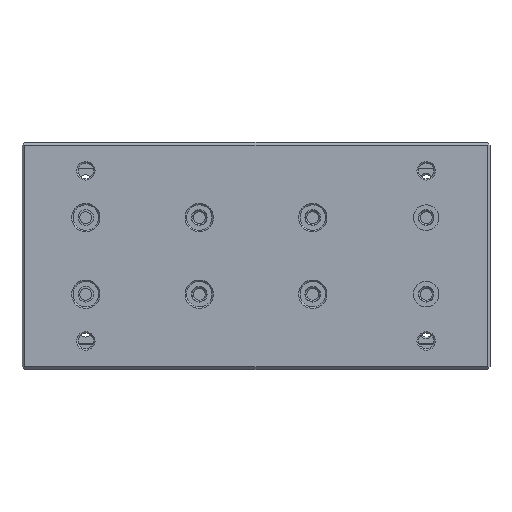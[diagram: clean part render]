
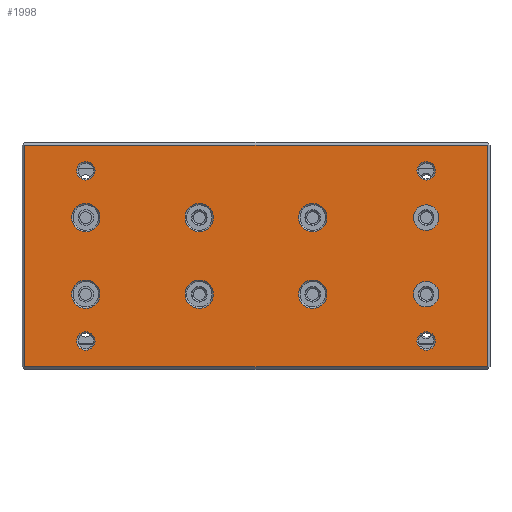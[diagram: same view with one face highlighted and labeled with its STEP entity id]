
A CAD part, top view. The second image highlights one B-rep face of the part: STEP entity #1998.
In plain terms, the highlighted planar face has unit normal (0, 0, 1) as drawn and (0, 0, -1) by its records, which use the part's own axes.
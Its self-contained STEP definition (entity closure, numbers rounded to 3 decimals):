
#1=CARTESIAN_POINT('',(142.5,-13.5,0.));
#2=DIRECTION('',(0.,0.,-1.));
#3=DIRECTION('',(1.,0.,0.));
#4=AXIS2_PLACEMENT_3D('',#1,#2,#3);
#6=CARTESIAN_POINT('',(142.5,-13.5,0.));
#7=DIRECTION('',(0.,0.,-1.));
#8=DIRECTION('',(-1.,0.,0.));
#9=AXIS2_PLACEMENT_3D('',#6,#7,#8);
#11=CARTESIAN_POINT('',(142.5,13.5,0.));
#12=DIRECTION('',(0.,0.,-1.));
#13=DIRECTION('',(1.,0.,0.));
#14=AXIS2_PLACEMENT_3D('',#11,#12,#13);
#16=CARTESIAN_POINT('',(142.5,13.5,0.));
#17=DIRECTION('',(0.,0.,-1.));
#18=DIRECTION('',(-1.,0.,0.));
#19=AXIS2_PLACEMENT_3D('',#16,#17,#18);
#21=CARTESIAN_POINT('',(22.5,30.,0.));
#22=DIRECTION('',(0.,0.,1.));
#23=DIRECTION('',(1.,0.,0.));
#24=AXIS2_PLACEMENT_3D('',#21,#22,#23);
#26=CARTESIAN_POINT('',(22.5,30.,0.));
#27=DIRECTION('',(0.,0.,1.));
#28=DIRECTION('',(-1.,0.,0.));
#29=AXIS2_PLACEMENT_3D('',#26,#27,#28);
#31=CARTESIAN_POINT('',(22.5,13.5,0.));
#32=DIRECTION('',(0.,0.,1.));
#33=DIRECTION('',(1.,0.,0.));
#34=AXIS2_PLACEMENT_3D('',#31,#32,#33);
#36=CARTESIAN_POINT('',(22.5,13.5,0.));
#37=DIRECTION('',(0.,0.,1.));
#38=DIRECTION('',(-1.,0.,0.));
#39=AXIS2_PLACEMENT_3D('',#36,#37,#38);
#41=CARTESIAN_POINT('',(22.5,-13.5,0.));
#42=DIRECTION('',(0.,0.,1.));
#43=DIRECTION('',(1.,0.,0.));
#44=AXIS2_PLACEMENT_3D('',#41,#42,#43);
#46=CARTESIAN_POINT('',(22.5,-13.5,0.));
#47=DIRECTION('',(0.,0.,1.));
#48=DIRECTION('',(-1.,0.,0.));
#49=AXIS2_PLACEMENT_3D('',#46,#47,#48);
#51=CARTESIAN_POINT('',(22.5,-30.,0.));
#52=DIRECTION('',(0.,0.,1.));
#53=DIRECTION('',(1.,0.,0.));
#54=AXIS2_PLACEMENT_3D('',#51,#52,#53);
#56=CARTESIAN_POINT('',(22.5,-30.,0.));
#57=DIRECTION('',(0.,0.,1.));
#58=DIRECTION('',(-1.,0.,0.));
#59=AXIS2_PLACEMENT_3D('',#56,#57,#58);
#61=CARTESIAN_POINT('',(62.5,13.5,0.));
#62=DIRECTION('',(0.,0.,1.));
#63=DIRECTION('',(1.,0.,0.));
#64=AXIS2_PLACEMENT_3D('',#61,#62,#63);
#66=CARTESIAN_POINT('',(62.5,13.5,0.));
#67=DIRECTION('',(0.,0.,1.));
#68=DIRECTION('',(-1.,0.,0.));
#69=AXIS2_PLACEMENT_3D('',#66,#67,#68);
#71=CARTESIAN_POINT('',(62.5,-13.5,0.));
#72=DIRECTION('',(0.,0.,1.));
#73=DIRECTION('',(1.,0.,0.));
#74=AXIS2_PLACEMENT_3D('',#71,#72,#73);
#76=CARTESIAN_POINT('',(62.5,-13.5,0.));
#77=DIRECTION('',(0.,0.,1.));
#78=DIRECTION('',(-1.,0.,0.));
#79=AXIS2_PLACEMENT_3D('',#76,#77,#78);
#81=CARTESIAN_POINT('',(142.5,-30.,0.));
#82=DIRECTION('',(0.,0.,1.));
#83=DIRECTION('',(1.,0.,0.));
#84=AXIS2_PLACEMENT_3D('',#81,#82,#83);
#86=CARTESIAN_POINT('',(142.5,-30.,0.));
#87=DIRECTION('',(0.,0.,1.));
#88=DIRECTION('',(-1.,0.,0.));
#89=AXIS2_PLACEMENT_3D('',#86,#87,#88);
#91=CARTESIAN_POINT('',(102.5,-13.5,0.));
#92=DIRECTION('',(0.,0.,1.));
#93=DIRECTION('',(1.,0.,0.));
#94=AXIS2_PLACEMENT_3D('',#91,#92,#93);
#96=CARTESIAN_POINT('',(102.5,-13.5,0.));
#97=DIRECTION('',(0.,0.,1.));
#98=DIRECTION('',(-1.,0.,0.));
#99=AXIS2_PLACEMENT_3D('',#96,#97,#98);
#101=CARTESIAN_POINT('',(102.5,13.5,0.));
#102=DIRECTION('',(0.,0.,1.));
#103=DIRECTION('',(1.,0.,0.));
#104=AXIS2_PLACEMENT_3D('',#101,#102,#103);
#106=CARTESIAN_POINT('',(102.5,13.5,0.));
#107=DIRECTION('',(0.,0.,1.));
#108=DIRECTION('',(-1.,0.,0.));
#109=AXIS2_PLACEMENT_3D('',#106,#107,#108);
#111=CARTESIAN_POINT('',(142.5,30.,0.));
#112=DIRECTION('',(0.,0.,1.));
#113=DIRECTION('',(1.,0.,0.));
#114=AXIS2_PLACEMENT_3D('',#111,#112,#113);
#116=CARTESIAN_POINT('',(142.5,30.,0.));
#117=DIRECTION('',(0.,0.,1.));
#118=DIRECTION('',(-1.,0.,0.));
#119=AXIS2_PLACEMENT_3D('',#116,#117,#118);
#121=DIRECTION('',(0.,1.,0.));
#122=VECTOR('',#121,78.);
#123=CARTESIAN_POINT('',(1.,-39.,0.));
#124=LINE('',#123,#122);
#125=DIRECTION('',(-1.,0.,0.));
#126=VECTOR('',#125,163.);
#127=CARTESIAN_POINT('',(164.,-39.,0.));
#128=LINE('',#127,#126);
#129=DIRECTION('',(0.,-1.,0.));
#130=VECTOR('',#129,78.);
#131=CARTESIAN_POINT('',(164.,39.,0.));
#132=LINE('',#131,#130);
#133=DIRECTION('',(1.,0.,0.));
#134=VECTOR('',#133,163.);
#135=CARTESIAN_POINT('',(1.,39.,0.));
#136=LINE('',#135,#134);
#1535=CARTESIAN_POINT('',(147.,-13.5,0.));
#1536=CARTESIAN_POINT('',(138.,-13.5,0.));
#1537=VERTEX_POINT('',#1535);
#1538=VERTEX_POINT('',#1536);
#1575=CARTESIAN_POINT('',(147.,13.5,0.));
#1576=CARTESIAN_POINT('',(138.,13.5,0.));
#1577=VERTEX_POINT('',#1575);
#1578=VERTEX_POINT('',#1576);
#1623=CARTESIAN_POINT('',(25.75,30.,0.));
#1624=CARTESIAN_POINT('',(19.25,30.,0.));
#1625=VERTEX_POINT('',#1623);
#1626=VERTEX_POINT('',#1624);
#1631=CARTESIAN_POINT('',(27.5,13.5,0.));
#1632=CARTESIAN_POINT('',(17.5,13.5,0.));
#1633=VERTEX_POINT('',#1631);
#1634=VERTEX_POINT('',#1632);
#1639=CARTESIAN_POINT('',(27.5,-13.5,0.));
#1640=CARTESIAN_POINT('',(17.5,-13.5,0.));
#1641=VERTEX_POINT('',#1639);
#1642=VERTEX_POINT('',#1640);
#1647=CARTESIAN_POINT('',(25.75,-30.,0.));
#1648=CARTESIAN_POINT('',(19.25,-30.,0.));
#1649=VERTEX_POINT('',#1647);
#1650=VERTEX_POINT('',#1648);
#1655=CARTESIAN_POINT('',(67.5,13.5,0.));
#1656=CARTESIAN_POINT('',(57.5,13.5,0.));
#1657=VERTEX_POINT('',#1655);
#1658=VERTEX_POINT('',#1656);
#1663=CARTESIAN_POINT('',(67.5,-13.5,0.));
#1664=CARTESIAN_POINT('',(57.5,-13.5,0.));
#1665=VERTEX_POINT('',#1663);
#1666=VERTEX_POINT('',#1664);
#1671=CARTESIAN_POINT('',(145.75,-30.,0.));
#1672=CARTESIAN_POINT('',(139.25,-30.,0.));
#1673=VERTEX_POINT('',#1671);
#1674=VERTEX_POINT('',#1672);
#1679=CARTESIAN_POINT('',(107.5,-13.5,0.));
#1680=CARTESIAN_POINT('',(97.5,-13.5,0.));
#1681=VERTEX_POINT('',#1679);
#1682=VERTEX_POINT('',#1680);
#1687=CARTESIAN_POINT('',(107.5,13.5,0.));
#1688=CARTESIAN_POINT('',(97.5,13.5,0.));
#1689=VERTEX_POINT('',#1687);
#1690=VERTEX_POINT('',#1688);
#1695=CARTESIAN_POINT('',(145.75,30.,0.));
#1696=CARTESIAN_POINT('',(139.25,30.,0.));
#1697=VERTEX_POINT('',#1695);
#1698=VERTEX_POINT('',#1696);
#1723=CARTESIAN_POINT('',(1.,-39.,0.));
#1724=CARTESIAN_POINT('',(1.,39.,0.));
#1725=VERTEX_POINT('',#1723);
#1726=VERTEX_POINT('',#1724);
#1741=CARTESIAN_POINT('',(164.,39.,0.));
#1742=VERTEX_POINT('',#1741);
#1743=CARTESIAN_POINT('',(164.,-39.,0.));
#1744=VERTEX_POINT('',#1743);
#1911=CARTESIAN_POINT('',(0.,0.,0.));
#1912=DIRECTION('',(0.,0.,1.));
#1913=DIRECTION('',(1.,0.,0.));
#1914=AXIS2_PLACEMENT_3D('',#1911,#1912,#1913);
#1915=PLANE('',#1914);
#1917=ORIENTED_EDGE('',*,*,#1916,.F.);
#1919=ORIENTED_EDGE('',*,*,#1918,.F.);
#1921=ORIENTED_EDGE('',*,*,#1920,.F.);
#1923=ORIENTED_EDGE('',*,*,#1922,.F.);
#1924=EDGE_LOOP('',(#1917,#1919,#1921,#1923));
#1925=FACE_OUTER_BOUND('',#1924,.F.);
#1927=ORIENTED_EDGE('',*,*,#1926,.T.);
#1929=ORIENTED_EDGE('',*,*,#1928,.T.);
#1930=EDGE_LOOP('',(#1927,#1929));
#1931=FACE_BOUND('',#1930,.F.);
#1933=ORIENTED_EDGE('',*,*,#1932,.F.);
#1935=ORIENTED_EDGE('',*,*,#1934,.F.);
#1936=EDGE_LOOP('',(#1933,#1935));
#1937=FACE_BOUND('',#1936,.F.);
#1939=ORIENTED_EDGE('',*,*,#1938,.F.);
#1941=ORIENTED_EDGE('',*,*,#1940,.F.);
#1942=EDGE_LOOP('',(#1939,#1941));
#1943=FACE_BOUND('',#1942,.F.);
#1945=ORIENTED_EDGE('',*,*,#1944,.F.);
#1947=ORIENTED_EDGE('',*,*,#1946,.F.);
#1948=EDGE_LOOP('',(#1945,#1947));
#1949=FACE_BOUND('',#1948,.F.);
#1951=ORIENTED_EDGE('',*,*,#1950,.F.);
#1953=ORIENTED_EDGE('',*,*,#1952,.F.);
#1954=EDGE_LOOP('',(#1951,#1953));
#1955=FACE_BOUND('',#1954,.F.);
#1957=ORIENTED_EDGE('',*,*,#1956,.F.);
#1959=ORIENTED_EDGE('',*,*,#1958,.F.);
#1960=EDGE_LOOP('',(#1957,#1959));
#1961=FACE_BOUND('',#1960,.F.);
#1963=ORIENTED_EDGE('',*,*,#1962,.F.);
#1965=ORIENTED_EDGE('',*,*,#1964,.F.);
#1966=EDGE_LOOP('',(#1963,#1965));
#1967=FACE_BOUND('',#1966,.F.);
#1969=ORIENTED_EDGE('',*,*,#1968,.F.);
#1971=ORIENTED_EDGE('',*,*,#1970,.F.);
#1972=EDGE_LOOP('',(#1969,#1971));
#1973=FACE_BOUND('',#1972,.F.);
#1975=ORIENTED_EDGE('',*,*,#1974,.F.);
#1977=ORIENTED_EDGE('',*,*,#1976,.F.);
#1978=EDGE_LOOP('',(#1975,#1977));
#1979=FACE_BOUND('',#1978,.F.);
#1981=ORIENTED_EDGE('',*,*,#1980,.F.);
#1983=ORIENTED_EDGE('',*,*,#1982,.F.);
#1984=EDGE_LOOP('',(#1981,#1983));
#1985=FACE_BOUND('',#1984,.F.);
#1987=ORIENTED_EDGE('',*,*,#1986,.F.);
#1989=ORIENTED_EDGE('',*,*,#1988,.F.);
#1990=EDGE_LOOP('',(#1987,#1989));
#1991=FACE_BOUND('',#1990,.F.);
#1993=ORIENTED_EDGE('',*,*,#1992,.T.);
#1995=ORIENTED_EDGE('',*,*,#1994,.T.);
#1996=EDGE_LOOP('',(#1993,#1995));
#1997=FACE_BOUND('',#1996,.F.);
#1998=ADVANCED_FACE('',(#1925,#1931,#1937,#1943,#1949,#1955,#1961,#1967,#1973,
#1979,#1985,#1991,#1997),#1915,.F.);
#5=CIRCLE('',#4,4.5);
#10=CIRCLE('',#9,4.5);
#15=CIRCLE('',#14,4.5);
#20=CIRCLE('',#19,4.5);
#25=CIRCLE('',#24,3.25);
#30=CIRCLE('',#29,3.25);
#35=CIRCLE('',#34,5.);
#40=CIRCLE('',#39,5.);
#45=CIRCLE('',#44,5.);
#50=CIRCLE('',#49,5.);
#55=CIRCLE('',#54,3.25);
#60=CIRCLE('',#59,3.25);
#65=CIRCLE('',#64,5.);
#70=CIRCLE('',#69,5.);
#75=CIRCLE('',#74,5.);
#80=CIRCLE('',#79,5.);
#85=CIRCLE('',#84,3.25);
#90=CIRCLE('',#89,3.25);
#95=CIRCLE('',#94,5.);
#100=CIRCLE('',#99,5.);
#105=CIRCLE('',#104,5.);
#110=CIRCLE('',#109,5.);
#115=CIRCLE('',#114,3.25);
#120=CIRCLE('',#119,3.25);
#1916=EDGE_CURVE('',#1725,#1726,#124,.T.);
#1918=EDGE_CURVE('',#1744,#1725,#128,.T.);
#1920=EDGE_CURVE('',#1742,#1744,#132,.T.);
#1922=EDGE_CURVE('',#1726,#1742,#136,.T.);
#1926=EDGE_CURVE('',#1577,#1578,#15,.T.);
#1928=EDGE_CURVE('',#1578,#1577,#20,.T.);
#1932=EDGE_CURVE('',#1625,#1626,#25,.T.);
#1934=EDGE_CURVE('',#1626,#1625,#30,.T.);
#1938=EDGE_CURVE('',#1633,#1634,#35,.T.);
#1940=EDGE_CURVE('',#1634,#1633,#40,.T.);
#1944=EDGE_CURVE('',#1641,#1642,#45,.T.);
#1946=EDGE_CURVE('',#1642,#1641,#50,.T.);
#1950=EDGE_CURVE('',#1649,#1650,#55,.T.);
#1952=EDGE_CURVE('',#1650,#1649,#60,.T.);
#1956=EDGE_CURVE('',#1657,#1658,#65,.T.);
#1958=EDGE_CURVE('',#1658,#1657,#70,.T.);
#1962=EDGE_CURVE('',#1665,#1666,#75,.T.);
#1964=EDGE_CURVE('',#1666,#1665,#80,.T.);
#1968=EDGE_CURVE('',#1673,#1674,#85,.T.);
#1970=EDGE_CURVE('',#1674,#1673,#90,.T.);
#1974=EDGE_CURVE('',#1681,#1682,#95,.T.);
#1976=EDGE_CURVE('',#1682,#1681,#100,.T.);
#1980=EDGE_CURVE('',#1689,#1690,#105,.T.);
#1982=EDGE_CURVE('',#1690,#1689,#110,.T.);
#1986=EDGE_CURVE('',#1697,#1698,#115,.T.);
#1988=EDGE_CURVE('',#1698,#1697,#120,.T.);
#1992=EDGE_CURVE('',#1537,#1538,#5,.T.);
#1994=EDGE_CURVE('',#1538,#1537,#10,.T.);
